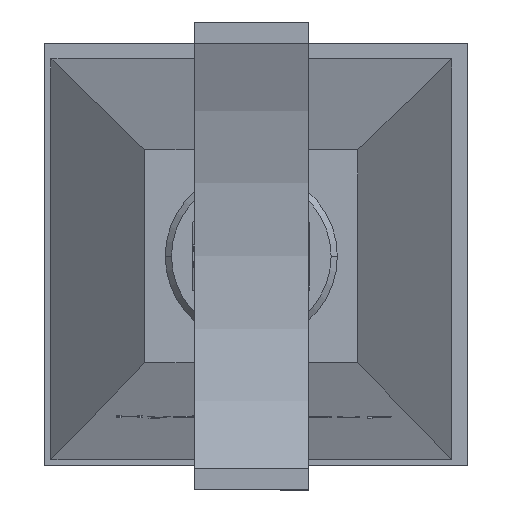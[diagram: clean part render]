
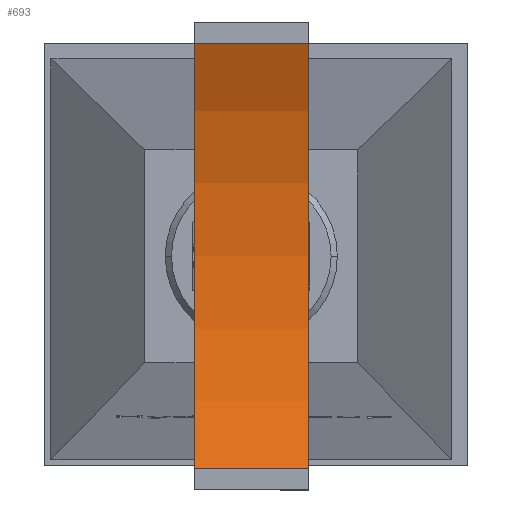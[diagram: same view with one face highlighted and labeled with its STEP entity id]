
A CAD part, top view. The second image highlights one B-rep face of the part: STEP entity #693.
In plain terms, the highlighted cylindrical face has radius 304.8 mm (diameter 609.6 mm), a partial arc.
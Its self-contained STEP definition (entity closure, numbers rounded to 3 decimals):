
#693=ADVANCED_FACE('',(#1391),#1392,.F.);
#1391=FACE_OUTER_BOUND('',#2135,.T.);
#1392=CYLINDRICAL_SURFACE('',#2136,304.8);
#2135=EDGE_LOOP('',(#4198,#4199,#4200,#4201));
#2136=AXIS2_PLACEMENT_3D('',#4202,#4203,#4204);
#4198=ORIENTED_EDGE('',*,*,#5101,.T.);
#4199=ORIENTED_EDGE('',*,*,#5102,.F.);
#4200=ORIENTED_EDGE('',*,*,#5103,.T.);
#4201=ORIENTED_EDGE('',*,*,#5098,.T.);
#4202=CARTESIAN_POINT('',(459.076,493.619,888.8));
#4203=DIRECTION('',(-1.0,0.,0.));
#4204=DIRECTION('',(0.,-1.0,0.));
#5098=EDGE_CURVE('',#6191,#6189,#6192,.T.);
#5101=EDGE_CURVE('',#6189,#6195,#6196,.T.);
#5102=EDGE_CURVE('',#6197,#6195,#6198,.T.);
#5103=EDGE_CURVE('',#6197,#6191,#6199,.T.);
#6189=VERTEX_POINT('',#8189);
#6191=VERTEX_POINT('',#8192);
#6192=LINE('',#8193,#8194);
#6195=VERTEX_POINT('',#8198);
#6196=CIRCLE('',#8199,304.8);
#6197=VERTEX_POINT('',#8200);
#6198=LINE('',#8201,#8202);
#6199=CIRCLE('',#8203,304.8);
#8189=CARTESIAN_POINT('',(386.076,629.572,616.));
#8192=CARTESIAN_POINT('',(459.076,629.572,616.));
#8193=CARTESIAN_POINT('',(459.076,629.572,616.));
#8194=VECTOR('',#8898,1.0);
#8198=CARTESIAN_POINT('',(386.076,357.666,616.));
#8199=AXIS2_PLACEMENT_3D('',#8900,#8901,#8902);
#8200=CARTESIAN_POINT('',(459.076,357.666,616.));
#8201=CARTESIAN_POINT('',(459.076,357.666,616.));
#8202=VECTOR('',#8903,1.0);
#8203=AXIS2_PLACEMENT_3D('',#8904,#8905,#8906);
#8898=DIRECTION('',(-1.0,0.,0.));
#8900=CARTESIAN_POINT('',(386.076,493.619,888.8));
#8901=DIRECTION('',(-1.0,0.,0.));
#8902=DIRECTION('',(0.,-1.0,0.));
#8903=DIRECTION('',(-1.0,0.,0.));
#8904=CARTESIAN_POINT('',(459.076,493.619,888.8));
#8905=DIRECTION('',(1.0,0.,0.));
#8906=DIRECTION('',(0.,-1.0,0.));
